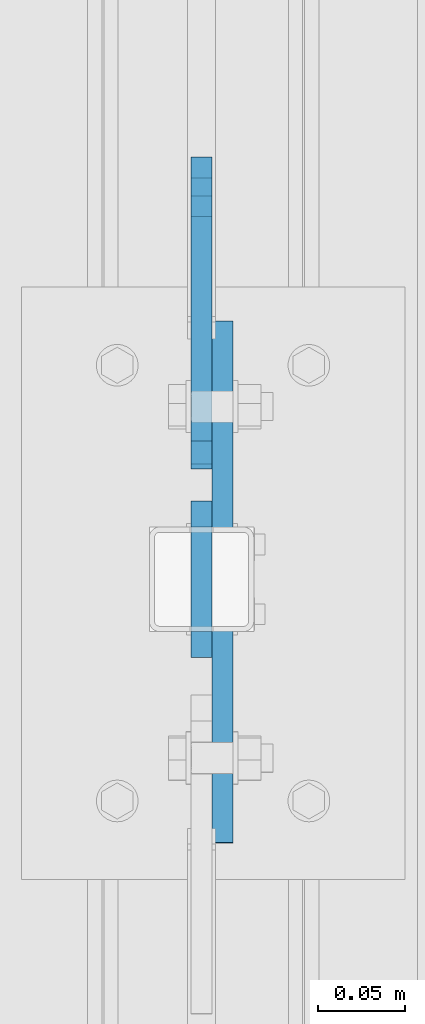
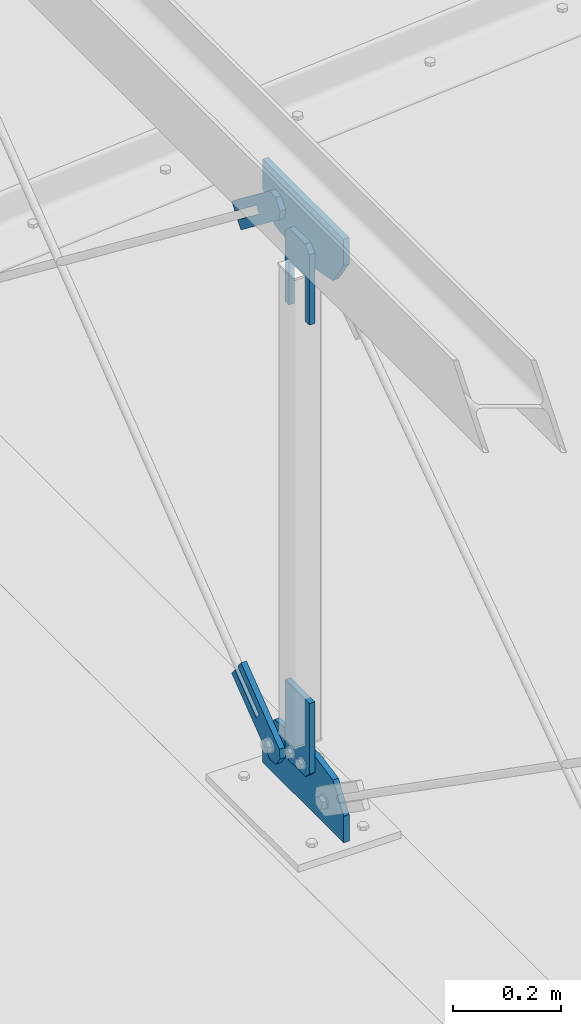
# One storey, part 124 of 271: 6 plates, 5 elements without a shape of their own.
"""IFC2X3 building model written with IfcOpenShell, lengths in millimetres."""

from ifc_helpers import new_model, si_unit, frame, origin_with_axes, place, context, subcontext, project, spatial, polyline, outline, extrude, material, type_object, element, aggregate, save


model = new_model("IFC2X3")

# Units and contexts
model_context = context("Model", 3, precision=1e-05, world=origin_with_axes())
body_context = subcontext(model_context, "Body", "Model", "MODEL_VIEW")
ifc_project = project(units=[si_unit("LENGTHUNIT", "METRE", prefix="MILLI"), si_unit("AREAUNIT", "SQUARE_METRE"), si_unit("VOLUMEUNIT", "CUBIC_METRE"), si_unit("MASSUNIT", "GRAM", prefix="KILO"), si_unit("TIMEUNIT", "SECOND"), si_unit("PLANEANGLEUNIT", "RADIAN"), si_unit("SOLIDANGLEUNIT", "STERADIAN"), si_unit("THERMODYNAMICTEMPERATUREUNIT", "DEGREE_CELSIUS"), si_unit("LUMINOUSINTENSITYUNIT", "LUMEN")], contexts=[model_context])

# Site, building, storey
site_placement = place(None, origin_with_axes())
site = spatial("IfcSite", under=ifc_project, at=site_placement, Name="Undefined", CompositionType="ELEMENT")
building_placement = place(site_placement, origin_with_axes())
building = spatial("IfcBuilding", under=site, at=building_placement, Name="Undefined", CompositionType="ELEMENT")
storey_placement = place(building_placement, origin_with_axes())
storey = spatial("IfcBuildingStorey", under=building, at=storey_placement, Name="Undefined", CompositionType="ELEMENT", Elevation=0.0)

# Assembly, plate
assembly_1_placement = place(storey_placement, origin_with_axes())
assembly_1 = element("IfcElementAssembly", 1, at=assembly_1_placement, inside=storey, AssemblyPlace="NOTDEFINED", PredefinedType="RIGID_FRAME")
ifc_material = material(Name="STEEL/S355JR")
plate_type_1 = type_object("IfcPlateType", Name="BL12*56", PredefinedType="NOTDEFINED")
plate_1_placement = place(assembly_1_placement, frame((6347.37568798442, 2079.46125725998, 39.044882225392), z_axis=(-1.0, 0.0, 1.38777878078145e-17), x_axis=(0.0, -0.991494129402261, 0.130151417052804)))
plate_1 = element("IfcPlate", 2, at=plate_1_placement, type_object=plate_type_1, material=ifc_material, Name="BLACHA", ObjectType="BL12*56", context=body_context, shape_type="SweptSolid", body=[
    extrude(outline(polyline([(0.0, 0.0), (21.2132034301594, 1.09139364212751e-11), (39.5979804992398, 18.3847751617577), (39.5979804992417, 39.5979804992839), (-86.9741363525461, 166.170089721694), (-100.762718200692, 152.381515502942), (-30.0520401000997, 81.670829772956), (-42.0728530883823, 69.6500167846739), (-112.783531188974, 140.36070251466), (-126.57211303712, 126.57211303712), (0.0, 0.0)])), frame((0.0, 0.0, -6.0), z_axis=(0.0, 0.0, 1.0), x_axis=(1.0, 0.0, 0.0)), (0.0, 0.0, 1.0), 12.0),
])
aggregate(assembly_1, [plate_1])

assembly_2_placement = place(storey_placement, origin_with_axes())
assembly_2 = element("IfcElementAssembly", 3, at=assembly_2_placement, inside=storey, AssemblyPlace="NOTDEFINED", PredefinedType="RIGID_FRAME")
plate_2_placement = place(assembly_2_placement, frame((6347.37568798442, 2045.35753668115, 1278.26453973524), z_axis=(-1.0, 0.0, 1.38777878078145e-17), x_axis=(0.0, -0.130355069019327, 0.991467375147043)))
plate_2 = element("IfcPlate", 4, at=plate_2_placement, type_object=plate_type_1, material=ifc_material, Name="BLACHA", ObjectType="BL12*56", context=body_context, shape_type="SweptSolid", body=[
    extrude(outline(polyline([(0.0, 0.0), (21.2132034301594, 1.09139364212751e-11), (39.5979804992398, 18.3847751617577), (39.5979804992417, 39.5979804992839), (-86.9741363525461, 166.170089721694), (-100.762718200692, 152.381515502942), (-30.0520401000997, 81.670829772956), (-42.0728530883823, 69.6500167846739), (-112.783531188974, 140.36070251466), (-126.57211303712, 126.57211303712), (0.0, 0.0)])), frame((0.0, 0.0, -6.0), z_axis=(0.0, 0.0, 1.0), x_axis=(1.0, 0.0, 0.0)), (0.0, 0.0, 1.0), 12.0),
])
aggregate(assembly_2, [plate_2])

# Assembly, plates
assembly_3_placement = place(storey_placement, origin_with_axes())
assembly_3 = element("IfcElementAssembly", 5, at=assembly_3_placement, inside=storey, AssemblyPlace="NOTDEFINED", PredefinedType="RIGID_FRAME")
plate_type_2 = type_object("IfcPlateType", Name="BL12*90", PredefinedType="NOTDEFINED")
plate_3_placement = place(assembly_3_placement, frame((6347.37568798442, 2024.19355050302, 94.8757262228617), z_axis=(-1.0, 0.0, 1.38777878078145e-17), x_axis=(0.0, -0.707106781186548, -0.707106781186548)))
plate_3 = element("IfcPlate", 6, at=plate_3_placement, type_object=plate_type_2, material=ifc_material, Name="BLACHA", ObjectType="BL12*90", context=body_context, shape_type="SweptSolid", body=[
    extrude(outline(polyline([(0.0, 0.0), (21.2132034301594, 1.09139364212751e-11), (63.6396102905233, 42.4264068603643), (63.6396102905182, 63.6396102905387), (-48.7903671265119, 176.069595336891), (-59.0434150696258, 165.816543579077), (-102.176933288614, 122.683029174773), (-112.42997741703, 112.429977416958), (0.0, 0.0)])), frame((0.0, 0.0, -6.0), z_axis=(0.0, 0.0, 1.0), x_axis=(1.0, 0.0, 0.0)), (0.0, 0.0, 1.0), 12.0),
])
plate_4_placement = place(assembly_3_placement, frame((6347.37568798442, 1934.19355050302, 1266.59999990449), z_axis=(-1.0, 0.0, 1.38777878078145e-17), x_axis=(0.0, 0.707106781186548, 0.707106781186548)))
plate_4 = element("IfcPlate", 7, at=plate_4_placement, type_object=plate_type_2, material=ifc_material, Name="BLACHA", ObjectType="BL12*90", context=body_context, shape_type="SweptSolid", body=[
    extrude(outline(polyline([(0.0, 0.0), (21.2132034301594, 1.09139364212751e-11), (63.6396102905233, 42.4264068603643), (63.6396102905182, 63.6396102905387), (-48.7903671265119, 176.069595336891), (-59.0434150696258, 165.816543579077), (11.6672620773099, 95.1058654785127), (-31.4662513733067, 51.9723472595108), (-102.176933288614, 122.683029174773), (-112.42997741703, 112.429977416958), (0.0, 0.0)])), frame((0.0, 0.0, -6.0), z_axis=(0.0, 0.0, 1.0), x_axis=(1.0, 0.0, 0.0)), (0.0, 0.0, 1.0), 12.0),
])
aggregate(assembly_3, [plate_3, plate_4])

# Assembly, plate
assembly_4_placement = place(storey_placement, origin_with_axes())
assembly_4 = element("IfcElementAssembly", 8, at=assembly_4_placement, inside=storey, AssemblyPlace="NOTDEFINED", PredefinedType="RIGID_FRAME")
plate_type_3 = type_object("IfcPlateType", Name="BL12*130", PredefinedType="NOTDEFINED")
plate_5_placement = place(assembly_4_placement, frame((6359.37568767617, 2127.34646164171, -0.150000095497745), z_axis=(-1.0, 0.0, 1.38777878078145e-17), x_axis=(0.0, -1.0, 0.0)))
plate_5 = element("IfcPlate", 9, at=plate_5_placement, type_object=plate_type_3, material=ifc_material, Name="BLACHA", ObjectType="BL12*130", context=body_context, shape_type="SweptSolid", body=[
    extrude(outline(polyline([(0.0, 0.0), (299.390808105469, 5.6843418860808e-14), (299.390808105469, 59.9332084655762), (259.457611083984, 117.425285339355), (198.152908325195, 130.025726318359), (98.1529083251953, 130.025726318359), (42.6342887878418, 122.660011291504), (0.0, 67.1413879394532), (0.0, 0.0)])), frame((0.0, 0.0, -6.0), z_axis=(0.0, 0.0, 1.0), x_axis=(1.0, 0.0, 0.0)), (0.0, 0.0, 1.0), 12.0),
])
aggregate(assembly_4, [plate_5])

assembly_5_placement = place(storey_placement, origin_with_axes())
assembly_5 = element("IfcElementAssembly", 10, at=assembly_5_placement, inside=storey, AssemblyPlace="NOTDEFINED", PredefinedType="RIGID_FRAME")
plate_6_placement = place(assembly_5_placement, frame((6359.37568798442, 1828.10237277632, 1361.5999999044), z_axis=(-1.0, 0.0, 1.38777878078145e-17), x_axis=(0.0, 1.0, 0.0)))
plate_6 = element("IfcPlate", 11, at=plate_6_placement, type_object=plate_type_3, material=ifc_material, Name="BLACHA", ObjectType="BL12*130", context=body_context, shape_type="SweptSolid", body=[
    extrude(outline(polyline([(0.0, 0.0), (299.246154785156, 0.0), (299.246154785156, 66.8479461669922), (256.623291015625, 122.375328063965), (199.232528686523, 130.0), (102.325691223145, 130.0), (40.0791244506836, 117.469573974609), (0.0, 60.0791244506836), (0.0, 0.0)])), frame((0.0, 0.0, -6.0), z_axis=(0.0, 0.0, 1.0), x_axis=(1.0, 0.0, 0.0)), (0.0, 0.0, 1.0), 12.0),
])
aggregate(assembly_5, [plate_6])

save(model, "model.ifc")
